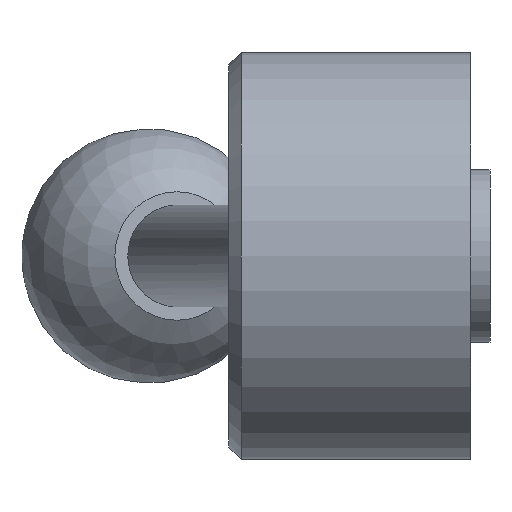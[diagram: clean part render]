
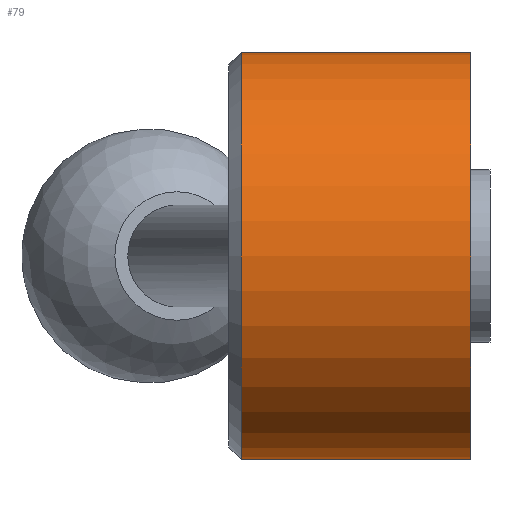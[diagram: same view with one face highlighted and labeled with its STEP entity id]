
A CAD part, left-side view. The second image highlights one B-rep face of the part: STEP entity #79.
In plain terms, the highlighted cylindrical face has radius 16 mm (diameter 32 mm), a full revolution.
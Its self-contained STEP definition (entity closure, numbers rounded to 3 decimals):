
#79 = ADVANCED_FACE( '', ( #103, #104, #105 ), #106, .T. );
#103 = FACE_OUTER_BOUND( '', #148, .T. );
#104 = FACE_BOUND( '', #149, .T. );
#105 = FACE_OUTER_BOUND( '', #150, .T. );
#106 = CYLINDRICAL_SURFACE( '', #151, 16. );
#148 = EDGE_LOOP( '', ( #201 ) );
#149 = EDGE_LOOP( '', ( #202 ) );
#150 = EDGE_LOOP( '', ( #203 ) );
#151 = AXIS2_PLACEMENT_3D( '', #204, #205, #206 );
#201 = ORIENTED_EDGE( '', *, *, #263, .F. );
#202 = ORIENTED_EDGE( '', *, *, #261, .F. );
#203 = ORIENTED_EDGE( '', *, *, #264, .T. );
#204 = CARTESIAN_POINT( '', ( 0., 0., 0. ) );
#205 = DIRECTION( '', ( 0., 1., 0. ) );
#206 = DIRECTION( '', ( 0., 0., -1. ) );
#261 = EDGE_CURVE( '', #280, #280, #281, .T. );
#263 = EDGE_CURVE( '', #284, #284, #285, .T. );
#264 = EDGE_CURVE( '', #286, #286, #287, .T. );
#280 = VERTEX_POINT( '', #308 );
#281 = B_SPLINE_CURVE_WITH_KNOTS( '', 3, ( #309, #310, #311, #312, #313, #314, #315, #316, #317, #318, #319, #320, #321, #322, #323, #324, #325, #326, #327, #328, #329, #330, #331, #332, #333, #334, #335, #336, #337, #338, #339, #340, #341, #342, #343, #344, #345, #346, #347, #348, #349, #350, #351, #352, #353, #354, #355, #356, #357, #358, #359, #360, #361, #362, #363, #364, #365, #366, #367, #368, #369, #370, #371, #372, #373, #374 ), .UNSPECIFIED., .T., .F., ( 2, 2, 2, 2, 2, 2, 2, 2, 2, 2, 2, 2, 2, 2, 2, 2, 2, 2, 2, 2, 2, 2, 2, 2, 2, 2, 2, 2, 2, 2, 2, 2, 2, 2, 2 ), ( -0.001, 0., 0.001, 0.002, 0.002, 0.003, 0.004, 0.005, 0.005, 0.006, 0.007, 0.008, 0.009, 0.009, 0.01, 0.011, 0.012, 0.013, 0.013, 0.014, 0.015, 0.016, 0.016, 0.017, 0.018, 0.019, 0.02, 0.02, 0.021, 0.022, 0.023, 0.024, 0.024, 0.025, 0.026 ), .UNSPECIFIED. );
#284 = VERTEX_POINT( '', #377 );
#285 = CIRCLE( '', #378, 16. );
#286 = VERTEX_POINT( '', #379 );
#287 = CIRCLE( '', #380, 16. );
#308 = CARTESIAN_POINT( '', ( 15.492, 12.5, 4. ) );
#309 = CARTESIAN_POINT( '', ( 15.492, 12.765, 4. ) );
#310 = CARTESIAN_POINT( '', ( 15.492, 12.235, 4. ) );
#311 = CARTESIAN_POINT( '', ( 15.499, 11.974, 3.974 ) );
#312 = CARTESIAN_POINT( '', ( 15.525, 11.461, 3.872 ) );
#313 = CARTESIAN_POINT( '', ( 15.544, 11.207, 3.794 ) );
#314 = CARTESIAN_POINT( '', ( 15.592, 10.723, 3.593 ) );
#315 = CARTESIAN_POINT( '', ( 15.62, 10.493, 3.47 ) );
#316 = CARTESIAN_POINT( '', ( 15.682, 10.06, 3.18 ) );
#317 = CARTESIAN_POINT( '', ( 15.715, 9.855, 3.012 ) );
#318 = CARTESIAN_POINT( '', ( 15.781, 9.488, 2.644 ) );
#319 = CARTESIAN_POINT( '', ( 15.814, 9.322, 2.444 ) );
#320 = CARTESIAN_POINT( '', ( 15.875, 9.03, 2.007 ) );
#321 = CARTESIAN_POINT( '', ( 15.903, 8.906, 1.776 ) );
#322 = CARTESIAN_POINT( '', ( 15.949, 8.706, 1.295 ) );
#323 = CARTESIAN_POINT( '', ( 15.968, 8.629, 1.042 ) );
#324 = CARTESIAN_POINT( '', ( 15.993, 8.526, 0.525 ) );
#325 = CARTESIAN_POINT( '', ( 16., 8.5, 0.265 ) );
#326 = CARTESIAN_POINT( '', ( 16., 8.5, -0.26 ) );
#327 = CARTESIAN_POINT( '', ( 15.993, 8.526, -0.526 ) );
#328 = CARTESIAN_POINT( '', ( 15.968, 8.629, -1.04 ) );
#329 = CARTESIAN_POINT( '', ( 15.95, 8.704, -1.29 ) );
#330 = CARTESIAN_POINT( '', ( 15.903, 8.906, -1.775 ) );
#331 = CARTESIAN_POINT( '', ( 15.875, 9.031, -2.008 ) );
#332 = CARTESIAN_POINT( '', ( 15.814, 9.32, -2.44 ) );
#333 = CARTESIAN_POINT( '', ( 15.781, 9.486, -2.643 ) );
#334 = CARTESIAN_POINT( '', ( 15.715, 9.857, -3.014 ) );
#335 = CARTESIAN_POINT( '', ( 15.682, 10.058, -3.178 ) );
#336 = CARTESIAN_POINT( '', ( 15.62, 10.49, -3.468 ) );
#337 = CARTESIAN_POINT( '', ( 15.592, 10.724, -3.594 ) );
#338 = CARTESIAN_POINT( '', ( 15.544, 11.207, -3.794 ) );
#339 = CARTESIAN_POINT( '', ( 15.525, 11.456, -3.87 ) );
#340 = CARTESIAN_POINT( '', ( 15.499, 11.971, -3.974 ) );
#341 = CARTESIAN_POINT( '', ( 15.492, 12.237, -4. ) );
#342 = CARTESIAN_POINT( '', ( 15.492, 12.76, -4. ) );
#343 = CARTESIAN_POINT( '', ( 15.499, 13.021, -3.975 ) );
#344 = CARTESIAN_POINT( '', ( 15.525, 13.541, -3.871 ) );
#345 = CARTESIAN_POINT( '', ( 15.544, 13.791, -3.795 ) );
#346 = CARTESIAN_POINT( '', ( 15.591, 14.273, -3.595 ) );
#347 = CARTESIAN_POINT( '', ( 15.62, 14.507, -3.47 ) );
#348 = CARTESIAN_POINT( '', ( 15.682, 14.941, -3.18 ) );
#349 = CARTESIAN_POINT( '', ( 15.714, 15.142, -3.015 ) );
#350 = CARTESIAN_POINT( '', ( 15.781, 15.511, -2.646 ) );
#351 = CARTESIAN_POINT( '', ( 15.814, 15.679, -2.442 ) );
#352 = CARTESIAN_POINT( '', ( 15.875, 15.968, -2.01 ) );
#353 = CARTESIAN_POINT( '', ( 15.903, 16.092, -1.78 ) );
#354 = CARTESIAN_POINT( '', ( 15.949, 16.294, -1.294 ) );
#355 = CARTESIAN_POINT( '', ( 15.968, 16.371, -1.042 ) );
#356 = CARTESIAN_POINT( '', ( 15.993, 16.473, -0.53 ) );
#357 = CARTESIAN_POINT( '', ( 16., 16.5, -0.266 ) );
#358 = CARTESIAN_POINT( '', ( 16., 16.5, 0.262 ) );
#359 = CARTESIAN_POINT( '', ( 15.994, 16.474, 0.522 ) );
#360 = CARTESIAN_POINT( '', ( 15.968, 16.372, 1.036 ) );
#361 = CARTESIAN_POINT( '', ( 15.95, 16.295, 1.291 ) );
#362 = CARTESIAN_POINT( '', ( 15.903, 16.095, 1.774 ) );
#363 = CARTESIAN_POINT( '', ( 15.876, 15.972, 2.004 ) );
#364 = CARTESIAN_POINT( '', ( 15.814, 15.68, 2.44 ) );
#365 = CARTESIAN_POINT( '', ( 15.781, 15.514, 2.643 ) );
#366 = CARTESIAN_POINT( '', ( 15.715, 15.147, 3.01 ) );
#367 = CARTESIAN_POINT( '', ( 15.682, 14.944, 3.177 ) );
#368 = CARTESIAN_POINT( '', ( 15.62, 14.508, 3.469 ) );
#369 = CARTESIAN_POINT( '', ( 15.592, 14.279, 3.592 ) );
#370 = CARTESIAN_POINT( '', ( 15.544, 13.797, 3.793 ) );
#371 = CARTESIAN_POINT( '', ( 15.525, 13.542, 3.871 ) );
#372 = CARTESIAN_POINT( '', ( 15.499, 13.027, 3.974 ) );
#373 = CARTESIAN_POINT( '', ( 15.492, 12.765, 4. ) );
#374 = CARTESIAN_POINT( '', ( 15.492, 12.235, 4. ) );
#377 = CARTESIAN_POINT( '', ( 0., 1.5, -16. ) );
#378 = AXIS2_PLACEMENT_3D( '', #408, #409, #410 );
#379 = CARTESIAN_POINT( '', ( 0., 19.5, -16. ) );
#380 = AXIS2_PLACEMENT_3D( '', #411, #412, #413 );
#408 = CARTESIAN_POINT( '', ( 0., 1.5, 0. ) );
#409 = DIRECTION( '', ( 0., -1., 0. ) );
#410 = DIRECTION( '', ( 0., 0., -1. ) );
#411 = CARTESIAN_POINT( '', ( 0., 19.5, 0. ) );
#412 = DIRECTION( '', ( 0., -1., 0. ) );
#413 = DIRECTION( '', ( 0., 0., -1. ) );
